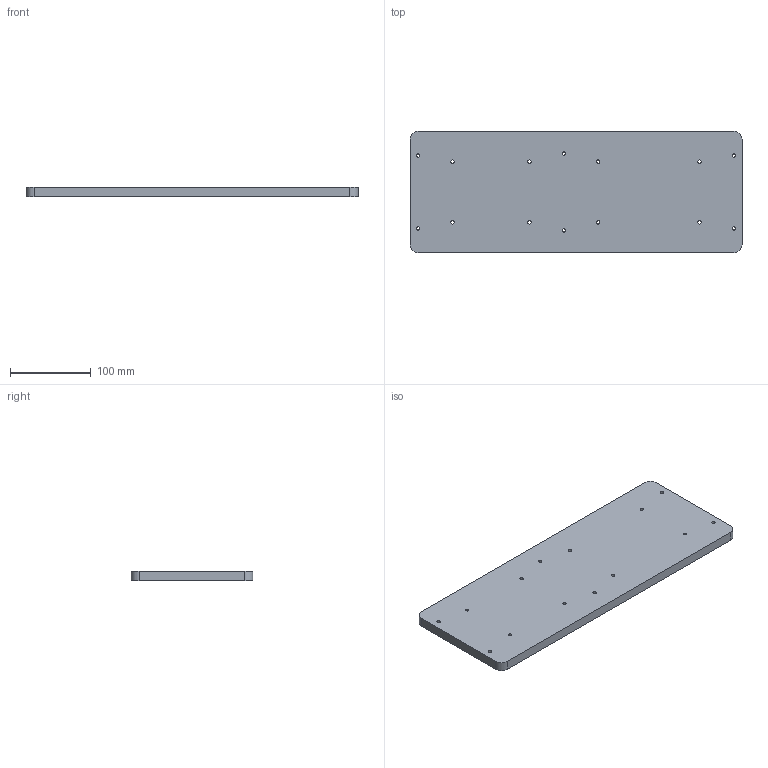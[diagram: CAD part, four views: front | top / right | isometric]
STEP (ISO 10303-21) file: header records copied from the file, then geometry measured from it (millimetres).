
FILE_DESCRIPTION(('CATIA V5 STEP Exchange'),'2;1');
FILE_NAME('D:\姚明阳\AGZ015\AGZ015.02_V1.stp','2022-02-07T06:29:58+00:00',('none'),('none'),'CATIA Version 5 Release 21 GA (IN-10)','CATIA V5 STEP AP214','none');
FILE_SCHEMA(('AUTOMOTIVE_DESIGN { 1 0 10303 214 1 1 1 1 }'));
Length unit declared in the file: millimetre
Products named in the file (1): AGZ015.02_V1
Bounding box: 410 x 150 x 12 mm (x, y, z)
Volume: 734642.4 mm3; surface area: 137891.1 mm2
Topology: 1 solids, 1 shells, 38 faces, 108 edges, 72 vertices
Faces by surface type: cylinder 32, plane 6
Entity records: 1220 total; most frequent: ORIENTED_EDGE 216, CARTESIAN_POINT 205, DIRECTION 156, EDGE_CURVE 108, AXIS2_PLACEMENT_3D 89, VERTEX_POINT 72, EDGE_LOOP 66, CIRCLE 64
